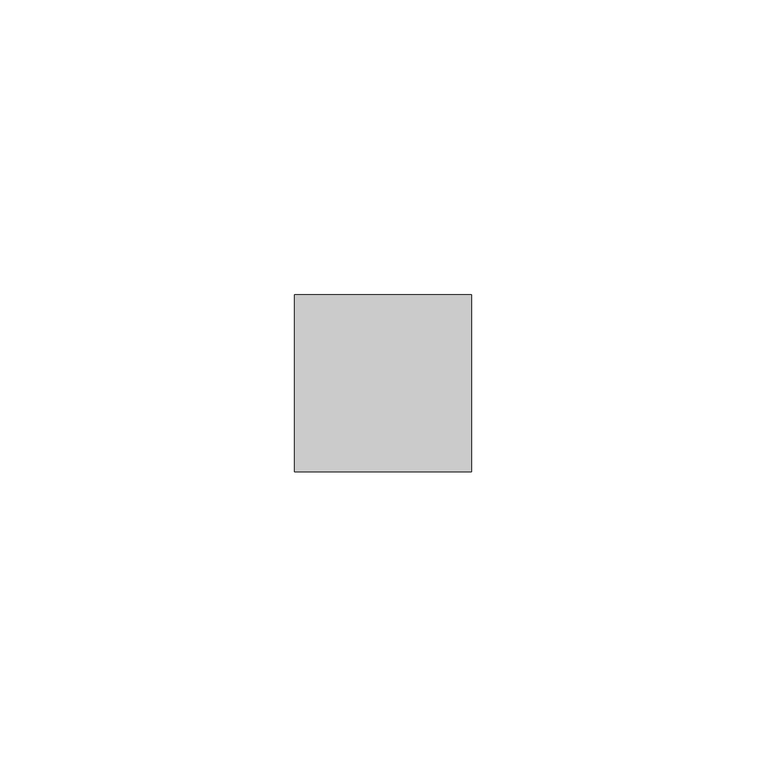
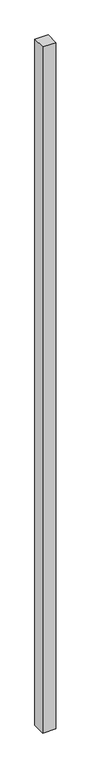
"""IFC4 building model written with IfcOpenShell, lengths in millimetres: member geometry, 矩形竖梃 : 30mm 正方形."""

from ifc_helpers import new_model, si_unit, frame, origin, place, context, project, spatial, polyline, outline, extrude, source, transform, mapped, element, save


def member_63391c1b(model_context):
    return source(origin(), model_context, "Body", "SweptSolid", [
        extrude(outline(polyline([(15.0, 15.0), (15.0, -15.0), (-15.0, -15.0), (-15.0, 15.0), (15.0, 15.0)])), frame((0.0, 0.0, -1640.0), z_axis=(0.0, 0.0, 1.0), x_axis=(1.0, 0.0, 0.0)), (0.0, 0.0, 1.0), 1640.0),
    ])


if __name__ == "__main__":
    model = new_model("IFC4")
    model_context = context("Model", 3, world=origin())
    ifc_project = project(units=[si_unit("LENGTHUNIT", "METRE", prefix="MILLI")], contexts=[model_context])
    site = spatial("IfcSite", under=ifc_project)
    building = spatial("IfcBuilding", under=site)
    placement = place(None, origin())
    member_shape = member_63391c1b(model_context)
    element("IfcMember", 1, ObjectType="矩形竖梃 : 30mm 正方形", at=placement, inside=building, context=model_context, shape_type="MappedRepresentation", body=[
        mapped(member_shape, transform((0.0, 0.0, 0.0), x_axis=(1.0, 0.0, 0.0), y_axis=(0.0, 1.0, 0.0), z_axis=(0.0, 0.0, 1.0))),
    ])
    save(model, "model.ifc")
